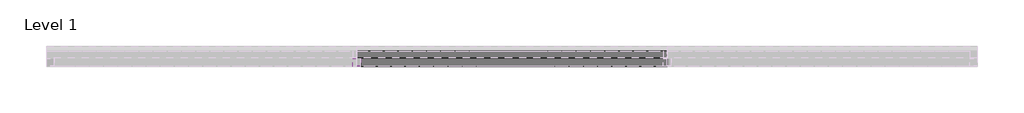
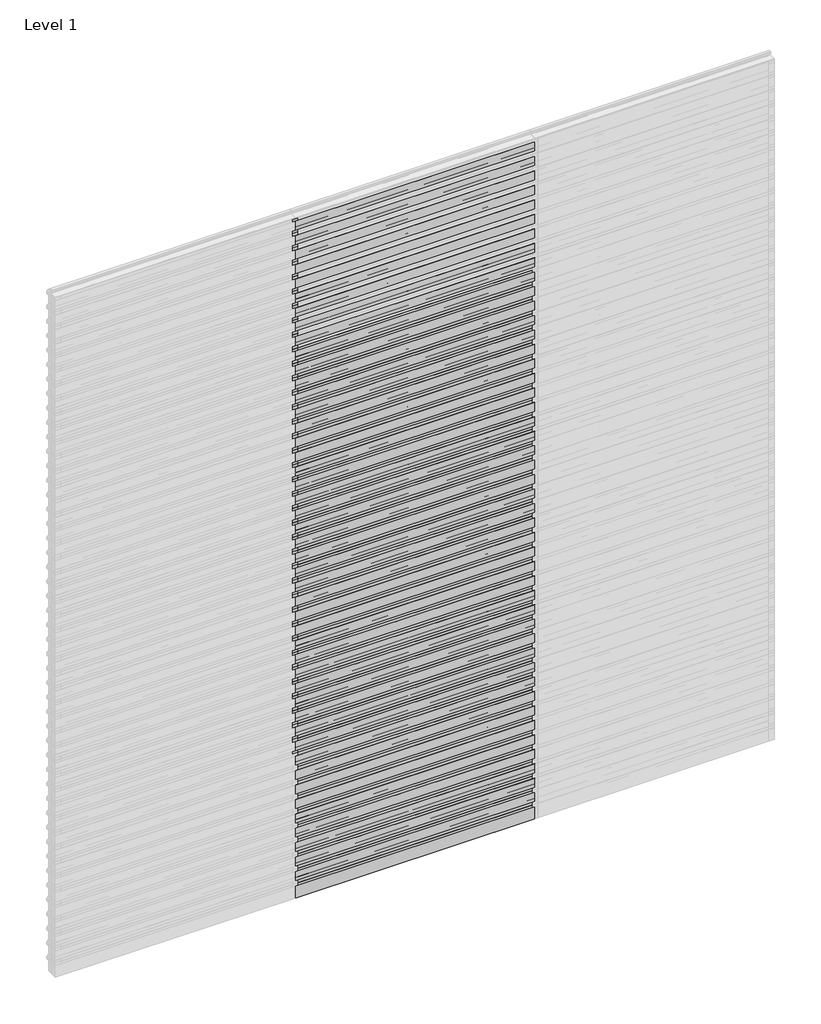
# One storey, part 3 of 5: 85 plates, 37 members.
"""IFC4 building model written with IfcOpenShell, lengths in millimetres."""

from ifc_helpers import new_model, si_unit, origin, place, context, project, spatial, transform, mapped, element, save
from components import rectangular_mullion_172e3795, empty_system_panel_empty_ea596e22, empty_system_panel_empty_a5cbaad0, empty_system_panel_empty_07f90b1f

model = new_model("IFC4")

# Units and contexts
model_context = context("Model", 3, world=origin())
ifc_project = project(units=[si_unit("LENGTHUNIT", "METRE", prefix="MILLI")], contexts=[model_context])

# Site, building, storey
site = spatial("IfcSite", under=ifc_project)
building = spatial("IfcBuilding", under=site)
storey = spatial("IfcBuildingStorey", under=building, Name="Level 1", Elevation=0.0)

# Members
placement = place(None, origin())
rectangular_mullion_shape = rectangular_mullion_172e3795(model_context)
element("IfcMember", 1, ObjectType="Rectangular Mullion : RSen_21_CWM_support profile 50x50_gen_duco projects", at=placement, inside=storey, context=model_context, shape_type="MappedRepresentation", body=[
    mapped(rectangular_mullion_shape, transform((2000.0, 3000.0, 1275.0), x_axis=(-1.0, 0.0, 0.0), y_axis=(0.0, 1.0, 0.0), z_axis=(0.0, 0.0, -1.0))),
])
element("IfcMember", 2, ObjectType="Rectangular Mullion : RSen_21_CWM_support profile 50x50_gen_duco projects", at=placement, inside=storey, context=model_context, shape_type="MappedRepresentation", body=[
    mapped(rectangular_mullion_shape, transform((2000.0, 3000.0, 1402.5), x_axis=(-1.0, 0.0, 0.0), y_axis=(0.0, 1.0, 0.0), z_axis=(0.0, 0.0, -1.0))),
])
element("IfcMember", 3, ObjectType="Rectangular Mullion : RSen_21_CWM_support profile 50x50_gen_duco projects", at=placement, inside=storey, context=model_context, shape_type="MappedRepresentation", body=[
    mapped(rectangular_mullion_shape, transform((2000.0, 3000.0, 1530.0), x_axis=(-1.0, 0.0, 0.0), y_axis=(0.0, 1.0, 0.0), z_axis=(0.0, 0.0, -1.0))),
])
element("IfcMember", 4, ObjectType="Rectangular Mullion : RSen_21_CWM_support profile 50x50_gen_duco projects", at=placement, inside=storey, context=model_context, shape_type="MappedRepresentation", body=[
    mapped(rectangular_mullion_shape, transform((2000.0, 3000.0, 1657.5), x_axis=(-1.0, 0.0, 0.0), y_axis=(0.0, 1.0, 0.0), z_axis=(0.0, 0.0, -1.0))),
])
element("IfcMember", 5, ObjectType="Rectangular Mullion : RSen_21_CWM_support profile 50x50_gen_duco projects", at=placement, inside=storey, context=model_context, shape_type="MappedRepresentation", body=[
    mapped(rectangular_mullion_shape, transform((2000.0, 3000.0, 1785.0), x_axis=(-1.0, 0.0, 0.0), y_axis=(0.0, 1.0, 0.0), z_axis=(0.0, 0.0, -1.0))),
])
element("IfcMember", 6, ObjectType="Rectangular Mullion : RSen_21_CWM_support profile 50x50_gen_duco projects", at=placement, inside=storey, context=model_context, shape_type="MappedRepresentation", body=[
    mapped(rectangular_mullion_shape, transform((2000.0, 3000.0, 1912.5), x_axis=(-1.0, 0.0, 0.0), y_axis=(0.0, 1.0, 0.0), z_axis=(0.0, 0.0, -1.0))),
])
element("IfcMember", 7, ObjectType="Rectangular Mullion : RSen_21_CWM_support profile 50x50_gen_duco projects", at=placement, inside=storey, context=model_context, shape_type="MappedRepresentation", body=[
    mapped(rectangular_mullion_shape, transform((2000.0, 3000.0, 2040.0), x_axis=(-1.0, 0.0, 0.0), y_axis=(0.0, 1.0, 0.0), z_axis=(0.0, 0.0, -1.0))),
])
element("IfcMember", 8, ObjectType="Rectangular Mullion : RSen_21_CWM_support profile 50x50_gen_duco projects", at=placement, inside=storey, context=model_context, shape_type="MappedRepresentation", body=[
    mapped(rectangular_mullion_shape, transform((2000.0, 3000.0, 2167.5), x_axis=(-1.0, 0.0, 0.0), y_axis=(0.0, 1.0, 0.0), z_axis=(0.0, 0.0, -1.0))),
])
element("IfcMember", 9, ObjectType="Rectangular Mullion : RSen_21_CWM_support profile 50x50_gen_duco projects", at=placement, inside=storey, context=model_context, shape_type="MappedRepresentation", body=[
    mapped(rectangular_mullion_shape, transform((2000.0, 3000.0, 2295.0), x_axis=(-1.0, 0.0, 0.0), y_axis=(0.0, 1.0, 0.0), z_axis=(0.0, 0.0, -1.0))),
])
element("IfcMember", 10, ObjectType="Rectangular Mullion : RSen_21_CWM_support profile 50x50_gen_duco projects", at=placement, inside=storey, context=model_context, shape_type="MappedRepresentation", body=[
    mapped(rectangular_mullion_shape, transform((2000.0, 3000.0, 2422.5), x_axis=(-1.0, 0.0, 0.0), y_axis=(0.0, 1.0, 0.0), z_axis=(0.0, 0.0, -1.0))),
])
element("IfcMember", 11, ObjectType="Rectangular Mullion : RSen_21_CWM_support profile 50x50_gen_duco projects", at=placement, inside=storey, context=model_context, shape_type="MappedRepresentation", body=[
    mapped(rectangular_mullion_shape, transform((2000.0, 3000.0, 2550.0), x_axis=(-1.0, 0.0, 0.0), y_axis=(0.0, 1.0, 0.0), z_axis=(0.0, 0.0, -1.0))),
])
element("IfcMember", 12, ObjectType="Rectangular Mullion : RSen_21_CWM_support profile 50x50_gen_duco projects", at=placement, inside=storey, context=model_context, shape_type="MappedRepresentation", body=[
    mapped(rectangular_mullion_shape, transform((2000.0, 3000.0, 2677.5), x_axis=(-1.0, 0.0, 0.0), y_axis=(0.0, 1.0, 0.0), z_axis=(0.0, 0.0, -1.0))),
])
element("IfcMember", 13, ObjectType="Rectangular Mullion : RSen_21_CWM_support profile 50x50_gen_duco projects", at=placement, inside=storey, context=model_context, shape_type="MappedRepresentation", body=[
    mapped(rectangular_mullion_shape, transform((2000.0, 3000.0, 2805.0), x_axis=(-1.0, 0.0, 0.0), y_axis=(0.0, 1.0, 0.0), z_axis=(0.0, 0.0, -1.0))),
])
element("IfcMember", 14, ObjectType="Rectangular Mullion : RSen_21_CWM_support profile 50x50_gen_duco projects", at=placement, inside=storey, context=model_context, shape_type="MappedRepresentation", body=[
    mapped(rectangular_mullion_shape, transform((2000.0, 3000.0, 2932.5), x_axis=(-1.0, 0.0, 0.0), y_axis=(0.0, 1.0, 0.0), z_axis=(0.0, 0.0, -1.0))),
])
element("IfcMember", 15, ObjectType="Rectangular Mullion : RSen_21_CWM_support profile 50x50_gen_duco projects", at=placement, inside=storey, context=model_context, shape_type="MappedRepresentation", body=[
    mapped(rectangular_mullion_shape, transform((2000.0, 3000.0, 3060.0), x_axis=(-1.0, 0.0, 0.0), y_axis=(0.0, 1.0, 0.0), z_axis=(0.0, 0.0, -1.0))),
])
element("IfcMember", 16, ObjectType="Rectangular Mullion : RSen_21_CWM_support profile 50x50_gen_duco projects", at=placement, inside=storey, context=model_context, shape_type="MappedRepresentation", body=[
    mapped(rectangular_mullion_shape, transform((2000.0, 3000.0, 3187.5), x_axis=(-1.0, 0.0, 0.0), y_axis=(0.0, 1.0, 0.0), z_axis=(0.0, 0.0, -1.0))),
])
element("IfcMember", 17, ObjectType="Rectangular Mullion : RSen_21_CWM_support profile 50x50_gen_duco projects", at=placement, inside=storey, context=model_context, shape_type="MappedRepresentation", body=[
    mapped(rectangular_mullion_shape, transform((2000.0, 3000.0, 3315.0), x_axis=(-1.0, 0.0, 0.0), y_axis=(0.0, 1.0, 0.0), z_axis=(0.0, 0.0, -1.0))),
])
element("IfcMember", 18, ObjectType="Rectangular Mullion : RSen_21_CWM_support profile 50x50_gen_duco projects", at=placement, inside=storey, context=model_context, shape_type="MappedRepresentation", body=[
    mapped(rectangular_mullion_shape, transform((2000.0, 3000.0, 3442.5), x_axis=(-1.0, 0.0, 0.0), y_axis=(0.0, 1.0, 0.0), z_axis=(0.0, 0.0, -1.0))),
])
element("IfcMember", 19, ObjectType="Rectangular Mullion : RSen_21_CWM_support profile 50x50_gen_duco projects", at=placement, inside=storey, context=model_context, shape_type="MappedRepresentation", body=[
    mapped(rectangular_mullion_shape, transform((2000.0, 3000.0, 3570.0), x_axis=(-1.0, 0.0, 0.0), y_axis=(0.0, 1.0, 0.0), z_axis=(0.0, 0.0, -1.0))),
])
element("IfcMember", 20, ObjectType="Rectangular Mullion : RSen_21_CWM_support profile 50x50_gen_duco projects", at=placement, inside=storey, context=model_context, shape_type="MappedRepresentation", body=[
    mapped(rectangular_mullion_shape, transform((2000.0, 3000.0, 3697.5), x_axis=(-1.0, 0.0, 0.0), y_axis=(0.0, 1.0, 0.0), z_axis=(0.0, 0.0, -1.0))),
])
element("IfcMember", 21, ObjectType="Rectangular Mullion : RSen_21_CWM_support profile 50x50_gen_duco projects", at=placement, inside=storey, context=model_context, shape_type="MappedRepresentation", body=[
    mapped(rectangular_mullion_shape, transform((2000.0, 3000.0, 3825.0), x_axis=(-1.0, 0.0, 0.0), y_axis=(0.0, 1.0, 0.0), z_axis=(0.0, 0.0, -1.0))),
])
element("IfcMember", 22, ObjectType="Rectangular Mullion : RSen_21_CWM_support profile 50x50_gen_duco projects", at=placement, inside=storey, context=model_context, shape_type="MappedRepresentation", body=[
    mapped(rectangular_mullion_shape, transform((2000.0, 3000.0, 3952.5), x_axis=(-1.0, 0.0, 0.0), y_axis=(0.0, 1.0, 0.0), z_axis=(0.0, 0.0, -1.0))),
])
element("IfcMember", 23, ObjectType="Rectangular Mullion : RSen_21_CWM_support profile 50x50_gen_duco projects", at=placement, inside=storey, context=model_context, shape_type="MappedRepresentation", body=[
    mapped(rectangular_mullion_shape, transform((2000.0, 3000.0, 4080.0), x_axis=(-1.0, 0.0, 0.0), y_axis=(0.0, 1.0, 0.0), z_axis=(0.0, 0.0, -1.0))),
])
element("IfcMember", 24, ObjectType="Rectangular Mullion : RSen_21_CWM_support profile 50x50_gen_duco projects", at=placement, inside=storey, context=model_context, shape_type="MappedRepresentation", body=[
    mapped(rectangular_mullion_shape, transform((2000.0, 3000.0, 4207.5), x_axis=(-1.0, 0.0, 0.0), y_axis=(0.0, 1.0, 0.0), z_axis=(0.0, 0.0, -1.0))),
])
element("IfcMember", 25, ObjectType="Rectangular Mullion : RSen_21_CWM_support profile 50x50_gen_duco projects", at=placement, inside=storey, context=model_context, shape_type="MappedRepresentation", body=[
    mapped(rectangular_mullion_shape, transform((2000.0, 3000.0, 4335.0), x_axis=(-1.0, 0.0, 0.0), y_axis=(0.0, 1.0, 0.0), z_axis=(0.0, 0.0, -1.0))),
])
element("IfcMember", 26, ObjectType="Rectangular Mullion : RSen_21_CWM_support profile 50x50_gen_duco projects", at=placement, inside=storey, context=model_context, shape_type="MappedRepresentation", body=[
    mapped(rectangular_mullion_shape, transform((2000.0, 3000.0, 4462.5), x_axis=(-1.0, 0.0, 0.0), y_axis=(0.0, 1.0, 0.0), z_axis=(0.0, 0.0, -1.0))),
])
element("IfcMember", 27, ObjectType="Rectangular Mullion : RSen_21_CWM_support profile 50x50_gen_duco projects", at=placement, inside=storey, context=model_context, shape_type="MappedRepresentation", body=[
    mapped(rectangular_mullion_shape, transform((2000.0, 3000.0, 4590.0), x_axis=(-1.0, 0.0, 0.0), y_axis=(0.0, 1.0, 0.0), z_axis=(0.0, 0.0, -1.0))),
])
element("IfcMember", 28, ObjectType="Rectangular Mullion : RSen_21_CWM_support profile 50x50_gen_duco projects", at=placement, inside=storey, context=model_context, shape_type="MappedRepresentation", body=[
    mapped(rectangular_mullion_shape, transform((2000.0, 3000.0, 4717.5), x_axis=(-1.0, 0.0, 0.0), y_axis=(0.0, 1.0, 0.0), z_axis=(0.0, 0.0, -1.0))),
])
element("IfcMember", 29, ObjectType="Rectangular Mullion : RSen_21_CWM_support profile 50x50_gen_duco projects", at=placement, inside=storey, context=model_context, shape_type="MappedRepresentation", body=[
    mapped(rectangular_mullion_shape, transform((2000.0, 3000.0, 4845.0), x_axis=(-1.0, 0.0, 0.0), y_axis=(0.0, 1.0, 0.0), z_axis=(0.0, 0.0, -1.0))),
])
element("IfcMember", 30, ObjectType="Rectangular Mullion : RSen_21_CWM_support profile 50x50_gen_duco projects", at=placement, inside=storey, context=model_context, shape_type="MappedRepresentation", body=[
    mapped(rectangular_mullion_shape, transform((2000.0, 3000.0, 4972.5), x_axis=(-1.0, 0.0, 0.0), y_axis=(0.0, 1.0, 0.0), z_axis=(0.0, 0.0, -1.0))),
])
element("IfcMember", 31, ObjectType="Rectangular Mullion : RSen_21_CWM_support profile 50x50_gen_duco projects", at=placement, inside=storey, context=model_context, shape_type="MappedRepresentation", body=[
    mapped(rectangular_mullion_shape, transform((2000.0, 3000.0, 5100.0), x_axis=(-1.0, 0.0, 0.0), y_axis=(0.0, 1.0, 0.0), z_axis=(0.0, 0.0, -1.0))),
])
element("IfcMember", 32, ObjectType="Rectangular Mullion : RSen_21_CWM_support profile 50x50_gen_duco projects", at=placement, inside=storey, context=model_context, shape_type="MappedRepresentation", body=[
    mapped(rectangular_mullion_shape, transform((2000.0, 3000.0, 5227.5), x_axis=(-1.0, 0.0, 0.0), y_axis=(0.0, 1.0, 0.0), z_axis=(0.0, 0.0, -1.0))),
])
element("IfcMember", 33, ObjectType="Rectangular Mullion : RSen_21_CWM_support profile 50x50_gen_duco projects", at=placement, inside=storey, context=model_context, shape_type="MappedRepresentation", body=[
    mapped(rectangular_mullion_shape, transform((2000.0, 3000.0, 5355.0), x_axis=(-1.0, 0.0, 0.0), y_axis=(0.0, 1.0, 0.0), z_axis=(0.0, 0.0, -1.0))),
])
element("IfcMember", 34, ObjectType="Rectangular Mullion : RSen_21_CWM_support profile 50x50_gen_duco projects", at=placement, inside=storey, context=model_context, shape_type="MappedRepresentation", body=[
    mapped(rectangular_mullion_shape, transform((2000.0, 3000.0, 5482.5), x_axis=(-1.0, 0.0, 0.0), y_axis=(0.0, 1.0, 0.0), z_axis=(0.0, 0.0, -1.0))),
])
element("IfcMember", 35, ObjectType="Rectangular Mullion : RSen_21_CWM_support profile 50x50_gen_duco projects", at=placement, inside=storey, context=model_context, shape_type="MappedRepresentation", body=[
    mapped(rectangular_mullion_shape, transform((2000.0, 3000.0, 5610.0), x_axis=(-1.0, 0.0, 0.0), y_axis=(0.0, 1.0, 0.0), z_axis=(0.0, 0.0, -1.0))),
])
element("IfcMember", 36, ObjectType="Rectangular Mullion : RSen_21_CWM_support profile 50x50_gen_duco projects", at=placement, inside=storey, context=model_context, shape_type="MappedRepresentation", body=[
    mapped(rectangular_mullion_shape, transform((2000.0, 3000.0, 5737.5), x_axis=(-1.0, 0.0, 0.0), y_axis=(0.0, 1.0, 0.0), z_axis=(0.0, 0.0, -1.0))),
])
element("IfcMember", 37, ObjectType="Rectangular Mullion : RSen_21_CWM_support profile 50x50_gen_duco projects", at=placement, inside=storey, context=model_context, shape_type="MappedRepresentation", body=[
    mapped(rectangular_mullion_shape, transform((2000.0, 3000.0, 5865.0), x_axis=(-1.0, 0.0, 0.0), y_axis=(0.0, 1.0, 0.0), z_axis=(0.0, 0.0, -1.0))),
])

# Plates
empty_system_panel_empty_shape = empty_system_panel_empty_ea596e22(model_context)
element("IfcPlate", 38, ObjectType="Empty System Panel : Empty", at=placement, inside=storey, context=model_context, shape_type="MappedRepresentation", body=[
    mapped(empty_system_panel_empty_shape, transform((3000.0, 3000.0, 0.0), x_axis=(-1.0, 0.0, 0.0), y_axis=(0.0, -1.0, 0.0), z_axis=(0.0, 0.0, 1.0))),
])
empty_system_panel_empty_2_shape = empty_system_panel_empty_a5cbaad0(model_context)
element("IfcPlate", 39, ObjectType="Empty System Panel : Empty", at=placement, inside=storey, context=model_context, shape_type="MappedRepresentation", body=[
    mapped(empty_system_panel_empty_2_shape, transform((3000.0, 3000.0, 151.5416306), x_axis=(-1.0, 0.0, 0.0), y_axis=(0.0, -1.0, 0.0), z_axis=(0.0, 0.0, 1.0))),
])
element("IfcPlate", 40, ObjectType="Empty System Panel : Empty", at=placement, inside=storey, context=model_context, shape_type="MappedRepresentation", body=[
    mapped(empty_system_panel_empty_2_shape, transform((3000.0, 3000.0, 279.0416306), x_axis=(-1.0, 0.0, 0.0), y_axis=(0.0, -1.0, 0.0), z_axis=(0.0, 0.0, 1.0))),
])
element("IfcPlate", 41, ObjectType="Empty System Panel : Empty", at=placement, inside=storey, context=model_context, shape_type="MappedRepresentation", body=[
    mapped(empty_system_panel_empty_2_shape, transform((3000.0, 3000.0, 406.5416306), x_axis=(-1.0, 0.0, 0.0), y_axis=(0.0, -1.0, 0.0), z_axis=(0.0, 0.0, 1.0))),
])
element("IfcPlate", 42, ObjectType="Empty System Panel : Empty", at=placement, inside=storey, context=model_context, shape_type="MappedRepresentation", body=[
    mapped(empty_system_panel_empty_2_shape, transform((3000.0, 3000.0, 534.0416306), x_axis=(-1.0, 0.0, 0.0), y_axis=(0.0, -1.0, 0.0), z_axis=(0.0, 0.0, 1.0))),
])
element("IfcPlate", 43, ObjectType="Empty System Panel : Empty", at=placement, inside=storey, context=model_context, shape_type="MappedRepresentation", body=[
    mapped(empty_system_panel_empty_2_shape, transform((3000.0, 3000.0, 661.5416306), x_axis=(-1.0, 0.0, 0.0), y_axis=(0.0, -1.0, 0.0), z_axis=(0.0, 0.0, 1.0))),
])
element("IfcPlate", 44, ObjectType="Empty System Panel : Empty", at=placement, inside=storey, context=model_context, shape_type="MappedRepresentation", body=[
    mapped(empty_system_panel_empty_2_shape, transform((3000.0, 3000.0, 789.0416306), x_axis=(-1.0, 0.0, 0.0), y_axis=(0.0, -1.0, 0.0), z_axis=(0.0, 0.0, 1.0))),
])
element("IfcPlate", 45, ObjectType="Empty System Panel : Empty", at=placement, inside=storey, context=model_context, shape_type="MappedRepresentation", body=[
    mapped(empty_system_panel_empty_2_shape, transform((3000.0, 3000.0, 916.5416306), x_axis=(-1.0, 0.0, 0.0), y_axis=(0.0, -1.0, 0.0), z_axis=(0.0, 0.0, 1.0))),
])
element("IfcPlate", 46, ObjectType="Empty System Panel : Empty", at=placement, inside=storey, context=model_context, shape_type="MappedRepresentation", body=[
    mapped(empty_system_panel_empty_2_shape, transform((3000.0, 3000.0, 1044.0416306), x_axis=(-1.0, 0.0, 0.0), y_axis=(0.0, -1.0, 0.0), z_axis=(0.0, 0.0, 1.0))),
])
element("IfcPlate", 47, ObjectType="Empty System Panel : Empty", at=placement, inside=storey, context=model_context, shape_type="MappedRepresentation", body=[
    mapped(empty_system_panel_empty_2_shape, transform((3000.0, 3000.0, 1171.5416306), x_axis=(-1.0, 0.0, 0.0), y_axis=(0.0, -1.0, 0.0), z_axis=(0.0, 0.0, 1.0))),
])
element("IfcPlate", 48, ObjectType="Empty System Panel : Empty", at=placement, inside=storey, context=model_context, shape_type="MappedRepresentation", body=[
    mapped(empty_system_panel_empty_2_shape, transform((3000.0, 3000.0, 1299.0416306), x_axis=(-1.0, 0.0, 0.0), y_axis=(0.0, -1.0, 0.0), z_axis=(0.0, 0.0, 1.0))),
])
element("IfcPlate", 49, ObjectType="Empty System Panel : Empty", at=placement, inside=storey, context=model_context, shape_type="MappedRepresentation", body=[
    mapped(empty_system_panel_empty_2_shape, transform((3000.0, 3000.0, 1426.5416306), x_axis=(-1.0, 0.0, 0.0), y_axis=(0.0, -1.0, 0.0), z_axis=(0.0, 0.0, 1.0))),
])
element("IfcPlate", 50, ObjectType="Empty System Panel : Empty", at=placement, inside=storey, context=model_context, shape_type="MappedRepresentation", body=[
    mapped(empty_system_panel_empty_2_shape, transform((3000.0, 3000.0, 1554.0416306), x_axis=(-1.0, 0.0, 0.0), y_axis=(0.0, -1.0, 0.0), z_axis=(0.0, 0.0, 1.0))),
])
element("IfcPlate", 51, ObjectType="Empty System Panel : Empty", at=placement, inside=storey, context=model_context, shape_type="MappedRepresentation", body=[
    mapped(empty_system_panel_empty_2_shape, transform((3000.0, 3000.0, 1681.5416306), x_axis=(-1.0, 0.0, 0.0), y_axis=(0.0, -1.0, 0.0), z_axis=(0.0, 0.0, 1.0))),
])
element("IfcPlate", 52, ObjectType="Empty System Panel : Empty", at=placement, inside=storey, context=model_context, shape_type="MappedRepresentation", body=[
    mapped(empty_system_panel_empty_2_shape, transform((3000.0, 3000.0, 1809.0416306), x_axis=(-1.0, 0.0, 0.0), y_axis=(0.0, -1.0, 0.0), z_axis=(0.0, 0.0, 1.0))),
])
element("IfcPlate", 53, ObjectType="Empty System Panel : Empty", at=placement, inside=storey, context=model_context, shape_type="MappedRepresentation", body=[
    mapped(empty_system_panel_empty_2_shape, transform((3000.0, 3000.0, 1936.5416306), x_axis=(-1.0, 0.0, 0.0), y_axis=(0.0, -1.0, 0.0), z_axis=(0.0, 0.0, 1.0))),
])
element("IfcPlate", 54, ObjectType="Empty System Panel : Empty", at=placement, inside=storey, context=model_context, shape_type="MappedRepresentation", body=[
    mapped(empty_system_panel_empty_2_shape, transform((3000.0, 3000.0, 2064.0416306), x_axis=(-1.0, 0.0, 0.0), y_axis=(0.0, -1.0, 0.0), z_axis=(0.0, 0.0, 1.0))),
])
element("IfcPlate", 55, ObjectType="Empty System Panel : Empty", at=placement, inside=storey, context=model_context, shape_type="MappedRepresentation", body=[
    mapped(empty_system_panel_empty_2_shape, transform((3000.0, 3000.0, 2191.5416306), x_axis=(-1.0, 0.0, 0.0), y_axis=(0.0, -1.0, 0.0), z_axis=(0.0, 0.0, 1.0))),
])
element("IfcPlate", 56, ObjectType="Empty System Panel : Empty", at=placement, inside=storey, context=model_context, shape_type="MappedRepresentation", body=[
    mapped(empty_system_panel_empty_2_shape, transform((3000.0, 3000.0, 2319.0416306), x_axis=(-1.0, 0.0, 0.0), y_axis=(0.0, -1.0, 0.0), z_axis=(0.0, 0.0, 1.0))),
])
element("IfcPlate", 57, ObjectType="Empty System Panel : Empty", at=placement, inside=storey, context=model_context, shape_type="MappedRepresentation", body=[
    mapped(empty_system_panel_empty_2_shape, transform((3000.0, 3000.0, 2446.5416306), x_axis=(-1.0, 0.0, 0.0), y_axis=(0.0, -1.0, 0.0), z_axis=(0.0, 0.0, 1.0))),
])
element("IfcPlate", 58, ObjectType="Empty System Panel : Empty", at=placement, inside=storey, context=model_context, shape_type="MappedRepresentation", body=[
    mapped(empty_system_panel_empty_2_shape, transform((3000.0, 3000.0, 2574.0416306), x_axis=(-1.0, 0.0, 0.0), y_axis=(0.0, -1.0, 0.0), z_axis=(0.0, 0.0, 1.0))),
])
element("IfcPlate", 59, ObjectType="Empty System Panel : Empty", at=placement, inside=storey, context=model_context, shape_type="MappedRepresentation", body=[
    mapped(empty_system_panel_empty_2_shape, transform((3000.0, 3000.0, 2701.5416306), x_axis=(-1.0, 0.0, 0.0), y_axis=(0.0, -1.0, 0.0), z_axis=(0.0, 0.0, 1.0))),
])
element("IfcPlate", 60, ObjectType="Empty System Panel : Empty", at=placement, inside=storey, context=model_context, shape_type="MappedRepresentation", body=[
    mapped(empty_system_panel_empty_2_shape, transform((3000.0, 3000.0, 2829.0416306), x_axis=(-1.0, 0.0, 0.0), y_axis=(0.0, -1.0, 0.0), z_axis=(0.0, 0.0, 1.0))),
])
element("IfcPlate", 61, ObjectType="Empty System Panel : Empty", at=placement, inside=storey, context=model_context, shape_type="MappedRepresentation", body=[
    mapped(empty_system_panel_empty_2_shape, transform((3000.0, 3000.0, 2956.5416306), x_axis=(-1.0, 0.0, 0.0), y_axis=(0.0, -1.0, 0.0), z_axis=(0.0, 0.0, 1.0))),
])
element("IfcPlate", 62, ObjectType="Empty System Panel : Empty", at=placement, inside=storey, context=model_context, shape_type="MappedRepresentation", body=[
    mapped(empty_system_panel_empty_2_shape, transform((3000.0, 3000.0, 3084.0416306), x_axis=(-1.0, 0.0, 0.0), y_axis=(0.0, -1.0, 0.0), z_axis=(0.0, 0.0, 1.0))),
])
element("IfcPlate", 63, ObjectType="Empty System Panel : Empty", at=placement, inside=storey, context=model_context, shape_type="MappedRepresentation", body=[
    mapped(empty_system_panel_empty_2_shape, transform((3000.0, 3000.0, 3211.5416306), x_axis=(-1.0, 0.0, 0.0), y_axis=(0.0, -1.0, 0.0), z_axis=(0.0, 0.0, 1.0))),
])
element("IfcPlate", 64, ObjectType="Empty System Panel : Empty", at=placement, inside=storey, context=model_context, shape_type="MappedRepresentation", body=[
    mapped(empty_system_panel_empty_2_shape, transform((3000.0, 3000.0, 3339.0416306), x_axis=(-1.0, 0.0, 0.0), y_axis=(0.0, -1.0, 0.0), z_axis=(0.0, 0.0, 1.0))),
])
element("IfcPlate", 65, ObjectType="Empty System Panel : Empty", at=placement, inside=storey, context=model_context, shape_type="MappedRepresentation", body=[
    mapped(empty_system_panel_empty_2_shape, transform((3000.0, 3000.0, 3466.5416306), x_axis=(-1.0, 0.0, 0.0), y_axis=(0.0, -1.0, 0.0), z_axis=(0.0, 0.0, 1.0))),
])
element("IfcPlate", 66, ObjectType="Empty System Panel : Empty", at=placement, inside=storey, context=model_context, shape_type="MappedRepresentation", body=[
    mapped(empty_system_panel_empty_2_shape, transform((3000.0, 3000.0, 3594.0416306), x_axis=(-1.0, 0.0, 0.0), y_axis=(0.0, -1.0, 0.0), z_axis=(0.0, 0.0, 1.0))),
])
element("IfcPlate", 67, ObjectType="Empty System Panel : Empty", at=placement, inside=storey, context=model_context, shape_type="MappedRepresentation", body=[
    mapped(empty_system_panel_empty_2_shape, transform((3000.0, 3000.0, 3721.5416306), x_axis=(-1.0, 0.0, 0.0), y_axis=(0.0, -1.0, 0.0), z_axis=(0.0, 0.0, 1.0))),
])
element("IfcPlate", 68, ObjectType="Empty System Panel : Empty", at=placement, inside=storey, context=model_context, shape_type="MappedRepresentation", body=[
    mapped(empty_system_panel_empty_2_shape, transform((3000.0, 3000.0, 3849.0416306), x_axis=(-1.0, 0.0, 0.0), y_axis=(0.0, -1.0, 0.0), z_axis=(0.0, 0.0, 1.0))),
])
element("IfcPlate", 69, ObjectType="Empty System Panel : Empty", at=placement, inside=storey, context=model_context, shape_type="MappedRepresentation", body=[
    mapped(empty_system_panel_empty_2_shape, transform((3000.0, 3000.0, 3976.5416306), x_axis=(-1.0, 0.0, 0.0), y_axis=(0.0, -1.0, 0.0), z_axis=(0.0, 0.0, 1.0))),
])
element("IfcPlate", 70, ObjectType="Empty System Panel : Empty", at=placement, inside=storey, context=model_context, shape_type="MappedRepresentation", body=[
    mapped(empty_system_panel_empty_2_shape, transform((3000.0, 3000.0, 4104.0416306), x_axis=(-1.0, 0.0, 0.0), y_axis=(0.0, -1.0, 0.0), z_axis=(0.0, 0.0, 1.0))),
])
element("IfcPlate", 71, ObjectType="Empty System Panel : Empty", at=placement, inside=storey, context=model_context, shape_type="MappedRepresentation", body=[
    mapped(empty_system_panel_empty_2_shape, transform((3000.0, 3000.0, 4231.5416306), x_axis=(-1.0, 0.0, 0.0), y_axis=(0.0, -1.0, 0.0), z_axis=(0.0, 0.0, 1.0))),
])
element("IfcPlate", 72, ObjectType="Empty System Panel : Empty", at=placement, inside=storey, context=model_context, shape_type="MappedRepresentation", body=[
    mapped(empty_system_panel_empty_2_shape, transform((3000.0, 3000.0, 4359.0416306), x_axis=(-1.0, 0.0, 0.0), y_axis=(0.0, -1.0, 0.0), z_axis=(0.0, 0.0, 1.0))),
])
element("IfcPlate", 73, ObjectType="Empty System Panel : Empty", at=placement, inside=storey, context=model_context, shape_type="MappedRepresentation", body=[
    mapped(empty_system_panel_empty_2_shape, transform((3000.0, 3000.0, 4486.5416306), x_axis=(-1.0, 0.0, 0.0), y_axis=(0.0, -1.0, 0.0), z_axis=(0.0, 0.0, 1.0))),
])
element("IfcPlate", 74, ObjectType="Empty System Panel : Empty", at=placement, inside=storey, context=model_context, shape_type="MappedRepresentation", body=[
    mapped(empty_system_panel_empty_2_shape, transform((3000.0, 3000.0, 4614.0416306), x_axis=(-1.0, 0.0, 0.0), y_axis=(0.0, -1.0, 0.0), z_axis=(0.0, 0.0, 1.0))),
])
element("IfcPlate", 75, ObjectType="Empty System Panel : Empty", at=placement, inside=storey, context=model_context, shape_type="MappedRepresentation", body=[
    mapped(empty_system_panel_empty_2_shape, transform((3000.0, 3000.0, 4741.5416306), x_axis=(-1.0, 0.0, 0.0), y_axis=(0.0, -1.0, 0.0), z_axis=(0.0, 0.0, 1.0))),
])
element("IfcPlate", 76, ObjectType="Empty System Panel : Empty", at=placement, inside=storey, context=model_context, shape_type="MappedRepresentation", body=[
    mapped(empty_system_panel_empty_2_shape, transform((3000.0, 3000.0, 4869.0416306), x_axis=(-1.0, 0.0, 0.0), y_axis=(0.0, -1.0, 0.0), z_axis=(0.0, 0.0, 1.0))),
])
element("IfcPlate", 77, ObjectType="Empty System Panel : Empty", at=placement, inside=storey, context=model_context, shape_type="MappedRepresentation", body=[
    mapped(empty_system_panel_empty_2_shape, transform((3000.0, 3000.0, 4996.5416306), x_axis=(-1.0, 0.0, 0.0), y_axis=(0.0, -1.0, 0.0), z_axis=(0.0, 0.0, 1.0))),
])
element("IfcPlate", 78, ObjectType="Empty System Panel : Empty", at=placement, inside=storey, context=model_context, shape_type="MappedRepresentation", body=[
    mapped(empty_system_panel_empty_2_shape, transform((3000.0, 3000.0, 5124.0416306), x_axis=(-1.0, 0.0, 0.0), y_axis=(0.0, -1.0, 0.0), z_axis=(0.0, 0.0, 1.0))),
])
element("IfcPlate", 79, ObjectType="Empty System Panel : Empty", at=placement, inside=storey, context=model_context, shape_type="MappedRepresentation", body=[
    mapped(empty_system_panel_empty_2_shape, transform((3000.0, 3000.0, 5251.5416306), x_axis=(-1.0, 0.0, 0.0), y_axis=(0.0, -1.0, 0.0), z_axis=(0.0, 0.0, 1.0))),
])
element("IfcPlate", 80, ObjectType="Empty System Panel : Empty", at=placement, inside=storey, context=model_context, shape_type="MappedRepresentation", body=[
    mapped(empty_system_panel_empty_2_shape, transform((3000.0, 3000.0, 5379.0416306), x_axis=(-1.0, 0.0, 0.0), y_axis=(0.0, -1.0, 0.0), z_axis=(0.0, 0.0, 1.0))),
])
element("IfcPlate", 81, ObjectType="Empty System Panel : Empty", at=placement, inside=storey, context=model_context, shape_type="MappedRepresentation", body=[
    mapped(empty_system_panel_empty_2_shape, transform((3000.0, 3000.0, 5506.5416306), x_axis=(-1.0, 0.0, 0.0), y_axis=(0.0, -1.0, 0.0), z_axis=(0.0, 0.0, 1.0))),
])
element("IfcPlate", 82, ObjectType="Empty System Panel : Empty", at=placement, inside=storey, context=model_context, shape_type="MappedRepresentation", body=[
    mapped(empty_system_panel_empty_2_shape, transform((3000.0, 3000.0, 5634.0416306), x_axis=(-1.0, 0.0, 0.0), y_axis=(0.0, -1.0, 0.0), z_axis=(0.0, 0.0, 1.0))),
])
element("IfcPlate", 83, ObjectType="Empty System Panel : Empty", at=placement, inside=storey, context=model_context, shape_type="MappedRepresentation", body=[
    mapped(empty_system_panel_empty_2_shape, transform((3000.0, 3000.0, 5761.5416306), x_axis=(-1.0, 0.0, 0.0), y_axis=(0.0, -1.0, 0.0), z_axis=(0.0, 0.0, 1.0))),
])
element("IfcPlate", 84, ObjectType="Empty System Panel : Empty", at=placement, inside=storey, context=model_context, shape_type="MappedRepresentation", body=[
    mapped(empty_system_panel_empty_2_shape, transform((3000.0, 3000.0, 5889.0416306), x_axis=(-1.0, 0.0, 0.0), y_axis=(0.0, -1.0, 0.0), z_axis=(0.0, 0.0, 1.0))),
])
empty_system_panel_empty_3_shape = empty_system_panel_empty_07f90b1f(model_context)
element("IfcPlate", 85, ObjectType="Empty System Panel : Empty", at=placement, inside=storey, context=model_context, shape_type="MappedRepresentation", body=[
    mapped(empty_system_panel_empty_3_shape, transform((3000.0, 3000.0, 0.0), x_axis=(-1.0, 0.0, 0.0), y_axis=(0.0, -1.0, 0.0), z_axis=(0.0, 0.0, 1.0))),
])
element("IfcPlate", 86, ObjectType="Empty System Panel : Empty", at=placement, inside=storey, context=model_context, shape_type="MappedRepresentation", body=[
    mapped(empty_system_panel_empty_3_shape, transform((3000.0, 3000.0, 127.5), x_axis=(-1.0, 0.0, 0.0), y_axis=(0.0, -1.0, 0.0), z_axis=(0.0, 0.0, 1.0))),
])
element("IfcPlate", 87, ObjectType="Empty System Panel : Empty", at=placement, inside=storey, context=model_context, shape_type="MappedRepresentation", body=[
    mapped(empty_system_panel_empty_3_shape, transform((3000.0, 3000.0, 255.0), x_axis=(-1.0, 0.0, 0.0), y_axis=(0.0, -1.0, 0.0), z_axis=(0.0, 0.0, 1.0))),
])
element("IfcPlate", 88, ObjectType="Empty System Panel : Empty", at=placement, inside=storey, context=model_context, shape_type="MappedRepresentation", body=[
    mapped(empty_system_panel_empty_3_shape, transform((3000.0, 3000.0, 382.5), x_axis=(-1.0, 0.0, 0.0), y_axis=(0.0, -1.0, 0.0), z_axis=(0.0, 0.0, 1.0))),
])
element("IfcPlate", 89, ObjectType="Empty System Panel : Empty", at=placement, inside=storey, context=model_context, shape_type="MappedRepresentation", body=[
    mapped(empty_system_panel_empty_3_shape, transform((3000.0, 3000.0, 510.0), x_axis=(-1.0, 0.0, 0.0), y_axis=(0.0, -1.0, 0.0), z_axis=(0.0, 0.0, 1.0))),
])
element("IfcPlate", 90, ObjectType="Empty System Panel : Empty", at=placement, inside=storey, context=model_context, shape_type="MappedRepresentation", body=[
    mapped(empty_system_panel_empty_3_shape, transform((3000.0, 3000.0, 637.5), x_axis=(-1.0, 0.0, 0.0), y_axis=(0.0, -1.0, 0.0), z_axis=(0.0, 0.0, 1.0))),
])
element("IfcPlate", 91, ObjectType="Empty System Panel : Empty", at=placement, inside=storey, context=model_context, shape_type="MappedRepresentation", body=[
    mapped(empty_system_panel_empty_3_shape, transform((3000.0, 3000.0, 765.0), x_axis=(-1.0, 0.0, 0.0), y_axis=(0.0, -1.0, 0.0), z_axis=(0.0, 0.0, 1.0))),
])
element("IfcPlate", 92, ObjectType="Empty System Panel : Empty", at=placement, inside=storey, context=model_context, shape_type="MappedRepresentation", body=[
    mapped(empty_system_panel_empty_3_shape, transform((3000.0, 3000.0, 892.5), x_axis=(-1.0, 0.0, 0.0), y_axis=(0.0, -1.0, 0.0), z_axis=(0.0, 0.0, 1.0))),
])
element("IfcPlate", 93, ObjectType="Empty System Panel : Empty", at=placement, inside=storey, context=model_context, shape_type="MappedRepresentation", body=[
    mapped(empty_system_panel_empty_3_shape, transform((3000.0, 3000.0, 1020.0), x_axis=(-1.0, 0.0, 0.0), y_axis=(0.0, -1.0, 0.0), z_axis=(0.0, 0.0, 1.0))),
])
element("IfcPlate", 94, ObjectType="Empty System Panel : Empty", at=placement, inside=storey, context=model_context, shape_type="MappedRepresentation", body=[
    mapped(empty_system_panel_empty_3_shape, transform((3000.0, 3000.0, 1147.5), x_axis=(-1.0, 0.0, 0.0), y_axis=(0.0, -1.0, 0.0), z_axis=(0.0, 0.0, 1.0))),
])
element("IfcPlate", 95, ObjectType="Empty System Panel : Empty", at=placement, inside=storey, context=model_context, shape_type="MappedRepresentation", body=[
    mapped(empty_system_panel_empty_3_shape, transform((3000.0, 3000.0, 1275.0), x_axis=(-1.0, 0.0, 0.0), y_axis=(0.0, -1.0, 0.0), z_axis=(0.0, 0.0, 1.0))),
])
element("IfcPlate", 96, ObjectType="Empty System Panel : Empty", at=placement, inside=storey, context=model_context, shape_type="MappedRepresentation", body=[
    mapped(empty_system_panel_empty_3_shape, transform((3000.0, 3000.0, 1402.5), x_axis=(-1.0, 0.0, 0.0), y_axis=(0.0, -1.0, 0.0), z_axis=(0.0, 0.0, 1.0))),
])
element("IfcPlate", 97, ObjectType="Empty System Panel : Empty", at=placement, inside=storey, context=model_context, shape_type="MappedRepresentation", body=[
    mapped(empty_system_panel_empty_3_shape, transform((3000.0, 3000.0, 1530.0), x_axis=(-1.0, 0.0, 0.0), y_axis=(0.0, -1.0, 0.0), z_axis=(0.0, 0.0, 1.0))),
])
element("IfcPlate", 98, ObjectType="Empty System Panel : Empty", at=placement, inside=storey, context=model_context, shape_type="MappedRepresentation", body=[
    mapped(empty_system_panel_empty_3_shape, transform((3000.0, 3000.0, 1657.5), x_axis=(-1.0, 0.0, 0.0), y_axis=(0.0, -1.0, 0.0), z_axis=(0.0, 0.0, 1.0))),
])
element("IfcPlate", 99, ObjectType="Empty System Panel : Empty", at=placement, inside=storey, context=model_context, shape_type="MappedRepresentation", body=[
    mapped(empty_system_panel_empty_3_shape, transform((3000.0, 3000.0, 1785.0), x_axis=(-1.0, 0.0, 0.0), y_axis=(0.0, -1.0, 0.0), z_axis=(0.0, 0.0, 1.0))),
])
element("IfcPlate", 100, ObjectType="Empty System Panel : Empty", at=placement, inside=storey, context=model_context, shape_type="MappedRepresentation", body=[
    mapped(empty_system_panel_empty_3_shape, transform((3000.0, 3000.0, 1912.5), x_axis=(-1.0, 0.0, 0.0), y_axis=(0.0, -1.0, 0.0), z_axis=(0.0, 0.0, 1.0))),
])
element("IfcPlate", 101, ObjectType="Empty System Panel : Empty", at=placement, inside=storey, context=model_context, shape_type="MappedRepresentation", body=[
    mapped(empty_system_panel_empty_3_shape, transform((3000.0, 3000.0, 2040.0), x_axis=(-1.0, 0.0, 0.0), y_axis=(0.0, -1.0, 0.0), z_axis=(0.0, 0.0, 1.0))),
])
element("IfcPlate", 102, ObjectType="Empty System Panel : Empty", at=placement, inside=storey, context=model_context, shape_type="MappedRepresentation", body=[
    mapped(empty_system_panel_empty_3_shape, transform((3000.0, 3000.0, 2167.5), x_axis=(-1.0, 0.0, 0.0), y_axis=(0.0, -1.0, 0.0), z_axis=(0.0, 0.0, 1.0))),
])
element("IfcPlate", 103, ObjectType="Empty System Panel : Empty", at=placement, inside=storey, context=model_context, shape_type="MappedRepresentation", body=[
    mapped(empty_system_panel_empty_3_shape, transform((3000.0, 3000.0, 2295.0), x_axis=(-1.0, 0.0, 0.0), y_axis=(0.0, -1.0, 0.0), z_axis=(0.0, 0.0, 1.0))),
])
element("IfcPlate", 104, ObjectType="Empty System Panel : Empty", at=placement, inside=storey, context=model_context, shape_type="MappedRepresentation", body=[
    mapped(empty_system_panel_empty_3_shape, transform((3000.0, 3000.0, 2422.5), x_axis=(-1.0, 0.0, 0.0), y_axis=(0.0, -1.0, 0.0), z_axis=(0.0, 0.0, 1.0))),
])
element("IfcPlate", 105, ObjectType="Empty System Panel : Empty", at=placement, inside=storey, context=model_context, shape_type="MappedRepresentation", body=[
    mapped(empty_system_panel_empty_3_shape, transform((3000.0, 3000.0, 2550.0), x_axis=(-1.0, 0.0, 0.0), y_axis=(0.0, -1.0, 0.0), z_axis=(0.0, 0.0, 1.0))),
])
element("IfcPlate", 106, ObjectType="Empty System Panel : Empty", at=placement, inside=storey, context=model_context, shape_type="MappedRepresentation", body=[
    mapped(empty_system_panel_empty_3_shape, transform((3000.0, 3000.0, 2677.5), x_axis=(-1.0, 0.0, 0.0), y_axis=(0.0, -1.0, 0.0), z_axis=(0.0, 0.0, 1.0))),
])
element("IfcPlate", 107, ObjectType="Empty System Panel : Empty", at=placement, inside=storey, context=model_context, shape_type="MappedRepresentation", body=[
    mapped(empty_system_panel_empty_3_shape, transform((3000.0, 3000.0, 2805.0), x_axis=(-1.0, 0.0, 0.0), y_axis=(0.0, -1.0, 0.0), z_axis=(0.0, 0.0, 1.0))),
])
element("IfcPlate", 108, ObjectType="Empty System Panel : Empty", at=placement, inside=storey, context=model_context, shape_type="MappedRepresentation", body=[
    mapped(empty_system_panel_empty_3_shape, transform((3000.0, 3000.0, 2932.5), x_axis=(-1.0, 0.0, 0.0), y_axis=(0.0, -1.0, 0.0), z_axis=(0.0, 0.0, 1.0))),
])
element("IfcPlate", 109, ObjectType="Empty System Panel : Empty", at=placement, inside=storey, context=model_context, shape_type="MappedRepresentation", body=[
    mapped(empty_system_panel_empty_3_shape, transform((3000.0, 3000.0, 3060.0), x_axis=(-1.0, 0.0, 0.0), y_axis=(0.0, -1.0, 0.0), z_axis=(0.0, 0.0, 1.0))),
])
element("IfcPlate", 110, ObjectType="Empty System Panel : Empty", at=placement, inside=storey, context=model_context, shape_type="MappedRepresentation", body=[
    mapped(empty_system_panel_empty_3_shape, transform((3000.0, 3000.0, 3187.5), x_axis=(-1.0, 0.0, 0.0), y_axis=(0.0, -1.0, 0.0), z_axis=(0.0, 0.0, 1.0))),
])
element("IfcPlate", 111, ObjectType="Empty System Panel : Empty", at=placement, inside=storey, context=model_context, shape_type="MappedRepresentation", body=[
    mapped(empty_system_panel_empty_3_shape, transform((3000.0, 3000.0, 3315.0), x_axis=(-1.0, 0.0, 0.0), y_axis=(0.0, -1.0, 0.0), z_axis=(0.0, 0.0, 1.0))),
])
element("IfcPlate", 112, ObjectType="Empty System Panel : Empty", at=placement, inside=storey, context=model_context, shape_type="MappedRepresentation", body=[
    mapped(empty_system_panel_empty_3_shape, transform((3000.0, 3000.0, 3442.5), x_axis=(-1.0, 0.0, 0.0), y_axis=(0.0, -1.0, 0.0), z_axis=(0.0, 0.0, 1.0))),
])
element("IfcPlate", 113, ObjectType="Empty System Panel : Empty", at=placement, inside=storey, context=model_context, shape_type="MappedRepresentation", body=[
    mapped(empty_system_panel_empty_3_shape, transform((3000.0, 3000.0, 3570.0), x_axis=(-1.0, 0.0, 0.0), y_axis=(0.0, -1.0, 0.0), z_axis=(0.0, 0.0, 1.0))),
])
element("IfcPlate", 114, ObjectType="Empty System Panel : Empty", at=placement, inside=storey, context=model_context, shape_type="MappedRepresentation", body=[
    mapped(empty_system_panel_empty_3_shape, transform((3000.0, 3000.0, 3697.5), x_axis=(-1.0, 0.0, 0.0), y_axis=(0.0, -1.0, 0.0), z_axis=(0.0, 0.0, 1.0))),
])
element("IfcPlate", 115, ObjectType="Empty System Panel : Empty", at=placement, inside=storey, context=model_context, shape_type="MappedRepresentation", body=[
    mapped(empty_system_panel_empty_3_shape, transform((3000.0, 3000.0, 3825.0), x_axis=(-1.0, 0.0, 0.0), y_axis=(0.0, -1.0, 0.0), z_axis=(0.0, 0.0, 1.0))),
])
element("IfcPlate", 116, ObjectType="Empty System Panel : Empty", at=placement, inside=storey, context=model_context, shape_type="MappedRepresentation", body=[
    mapped(empty_system_panel_empty_3_shape, transform((3000.0, 3000.0, 3952.5), x_axis=(-1.0, 0.0, 0.0), y_axis=(0.0, -1.0, 0.0), z_axis=(0.0, 0.0, 1.0))),
])
element("IfcPlate", 117, ObjectType="Empty System Panel : Empty", at=placement, inside=storey, context=model_context, shape_type="MappedRepresentation", body=[
    mapped(empty_system_panel_empty_3_shape, transform((3000.0, 3000.0, 4080.0), x_axis=(-1.0, 0.0, 0.0), y_axis=(0.0, -1.0, 0.0), z_axis=(0.0, 0.0, 1.0))),
])
element("IfcPlate", 118, ObjectType="Empty System Panel : Empty", at=placement, inside=storey, context=model_context, shape_type="MappedRepresentation", body=[
    mapped(empty_system_panel_empty_3_shape, transform((3000.0, 3000.0, 4207.5), x_axis=(-1.0, 0.0, 0.0), y_axis=(0.0, -1.0, 0.0), z_axis=(0.0, 0.0, 1.0))),
])
element("IfcPlate", 119, ObjectType="Empty System Panel : Empty", at=placement, inside=storey, context=model_context, shape_type="MappedRepresentation", body=[
    mapped(empty_system_panel_empty_3_shape, transform((3000.0, 3000.0, 4335.0), x_axis=(-1.0, 0.0, 0.0), y_axis=(0.0, -1.0, 0.0), z_axis=(0.0, 0.0, 1.0))),
])
element("IfcPlate", 120, ObjectType="Empty System Panel : Empty", at=placement, inside=storey, context=model_context, shape_type="MappedRepresentation", body=[
    mapped(empty_system_panel_empty_3_shape, transform((3000.0, 3000.0, 4462.5), x_axis=(-1.0, 0.0, 0.0), y_axis=(0.0, -1.0, 0.0), z_axis=(0.0, 0.0, 1.0))),
])
element("IfcPlate", 121, ObjectType="Empty System Panel : Empty", at=placement, inside=storey, context=model_context, shape_type="MappedRepresentation", body=[
    mapped(empty_system_panel_empty_3_shape, transform((3000.0, 3000.0, 4590.0), x_axis=(-1.0, 0.0, 0.0), y_axis=(0.0, -1.0, 0.0), z_axis=(0.0, 0.0, 1.0))),
])
element("IfcPlate", 122, ObjectType="Empty System Panel : Empty", at=placement, inside=storey, context=model_context, shape_type="MappedRepresentation", body=[
    mapped(empty_system_panel_empty_3_shape, transform((3000.0, 3000.0, 4717.5), x_axis=(-1.0, 0.0, 0.0), y_axis=(0.0, -1.0, 0.0), z_axis=(0.0, 0.0, 1.0))),
])

save(model, "model.ifc")
